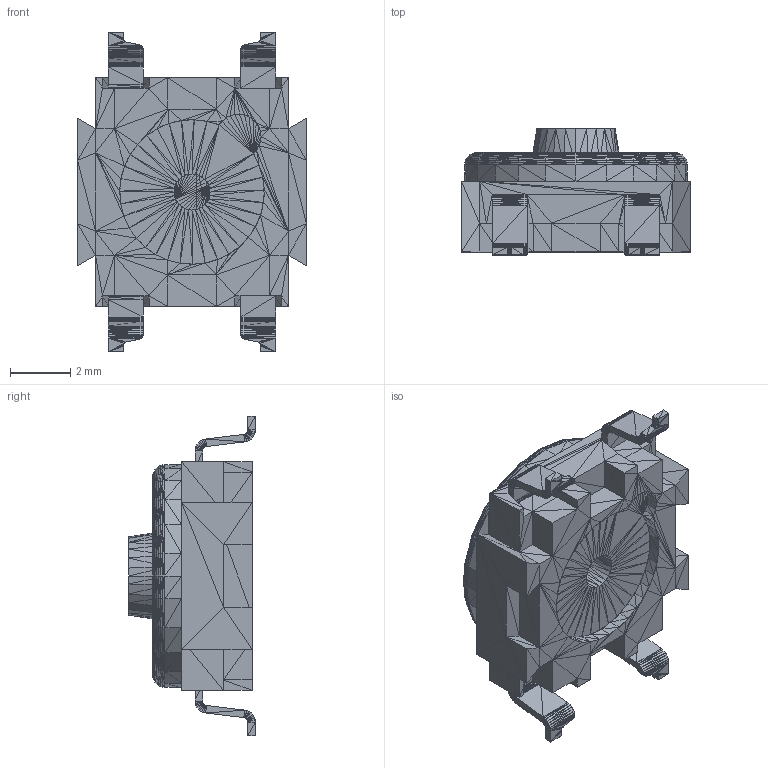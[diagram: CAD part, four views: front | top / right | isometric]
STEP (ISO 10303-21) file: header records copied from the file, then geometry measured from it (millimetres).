
FILE_DESCRIPTION(/* description */ (''),/* implementation_level */ '2;1');
FILE_NAME(/* name */ 'TMPS 1.stp',/* time_stamp */ '2021-11-2T10:57:03.9124536',/* author */ ('knitter-switch'),/* organization */ (''),/* preprocessor_version */ 'InStep v2',/* originating_system */ 'InStep V2.3',/* authorisation */ '');
FILE_SCHEMA (('AUTOMOTIVE_DESIGN { 1 0 10303 214 1 1 1 1 }'));
Length unit declared in the file: centimetre
Products named in the file (1): None
Bounding box: 7.6 x 4.2 x 10.6 mm (x, y, z)
Surface area: 455.4 mm2 (no closed solid volume)
Topology: 0 solids, 26 shells, 3950 faces, 6986 edges, 2923 vertices
Faces by surface type: plane 3950
Entity records: 68790 total; most frequent: ORIENTED_EDGE 13972, DIRECTION 9538, LINE 6986, EDGE_CURVE 6986, VECTOR 5586, AXIS2_PLACEMENT_3D 3951, EDGE_LOOP 3950, FACE_OUTER_BOUND 3950
